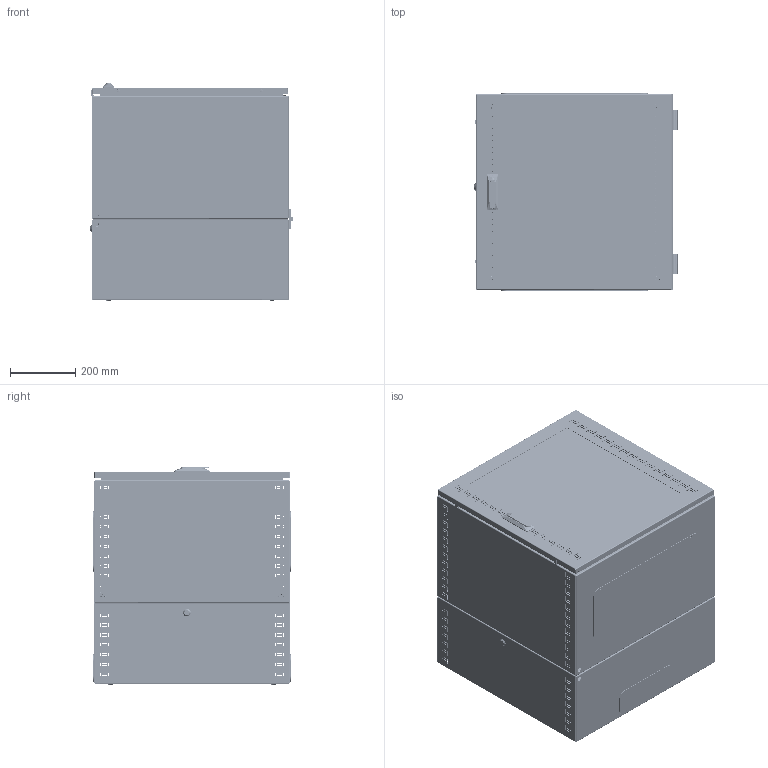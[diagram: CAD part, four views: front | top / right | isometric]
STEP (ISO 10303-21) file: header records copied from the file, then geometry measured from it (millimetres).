
FILE_DESCRIPTION (( 'STEP AP203' ), '1' );
FILE_NAME ('R5STI1265GS.STEP', '2019-07-16T12:24:20', ( '' ), ( '' ), 'SwSTEP 2.0', 'SolidWorks 2017', '' );
FILE_SCHEMA (( 'CONFIG_CONTROL_DESIGN' ));
Length unit declared in the file: millimetre
Products named in the file (51): RB.0374.00.02.0_-01 (12U); Handle Mesan (part 3); M8-DIN 6923 (CM100800)_stright; RB.0048.02.01.0; Lock 20x17,5x90 Ruslock; Ì6õ12-A5100231_straight; RB.0374.00.02.0 mirror_-05 (12U); 4.8x13 DIN 7981 (R5A07)_straight; RB.0374.05.01.0_-05 (600x600 glass); AC00C112; AC00C399; RB.0692.04.00.0 ÑÁ_-01 (600å600); RB.0692.03.00.0 C縫-01 (600x600); M6x12-DIN 6921_stright; M6x10-A1100004_straight; AC00C398; PF 7,5x15 door STI_0600å0600; M4x8 GOST 17475-80 (DIN 965)_straight; RB.0692.01.01.0_-01 (600å600å400); AC00C061_AC00C061; AC00C401_AC00C401; Handle 308 Mesan; RB.0374.05.00.0 捘_-05 (600x600 glass); Glass STI_0600x0600; AC00C383; RB.0692.01.02.0_-01 (600å600); RB.0374.04.01.0; AC00C380; RB.0374.06.00.0 捘_-05 (600x600 glass); Glue STI_0600x0600; M6 art.MGR-MKO-0625_2洵; Ì6õ20-A5100001_straight; RB.0374.04.00.0 CÁ; R5STI1265GS; RB.0374.00.01.0_-00 (400); Handle Mesan (part 1); RB.0692.02.01.0; RB.0692.01.00.0 CÁ_-01 (600å600å400); M6-DIN 6923 (CM100600)_straight; MirrorRB.0374.00.01.0_-00 (400)<As Machined>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
Assembly tree (158 placements, depth 4):
  R5STI1265GS
    RB.0692.04.00.0 ÑÁ_-01 (600å600)
      RB.0692.03.00.0 C縫-01 (600x600)
        RB.0692.03.01.0_-01 (600x600)
        RB.0374.01.02.0_-01 (600x600)
        Ì6õ12-A5100231_straight  x2
      AC00C061_AC00C061  x4
      RB.0374.04.00.0 CÁ  x2
        RB.0374.04.01.0
        Ì6õ12-A5100231_straight
      M6-DIN 6923 (CM100600)_straight  x8
      Lock 20x17,5x90 Ruslock
        Lock 20x17,5x90 Ruslock
        Nut 20x17,5x90 Ruslock
    RB.0692.02.00.0 C縫-01 (600x600x400)
      RB.0692.01.00.0 CÁ_-01 (600å600å400)
        RB.0692.01.01.0_-01 (600å600å400)
        RB.0692.01.02.0_-01 (600å600)
        Ì6õ20-A5100001_straight  x4
        Ì6õ12-A5100231_straight  x12
      RB.0374.03.00.0 CÁ  x2
        RB.0374.03.01.0
        Ì6õ12-A5100231_straight
      RB.0048.02.01.0  x2
      AC00C399  x2
      M4x8 GOST 17475-80 (DIN 965)_straight  x4
      AC00C383  x2
      AC00C061_AC00C061  x8
      M6-DIN 6923 (CM100600)_straight  x8
      M6 art.MGR-MKO-0625_2洵  x2
      RB.0692.02.01.0  x2
    Hinge M8 60x60 Ruslock  x4
    M8-DIN 6923 (CM100800)_stright  x8
    RB.0374.06.00.0 捘_-05 (600x600 glass)
      RB.0374.05.00.0 捘_-05 (600x600 glass)
        RB.0374.05.01.0_-05 (600x600 glass)
        AC00C398  x2
        Ì6õ12-A5100231_straight  x2
      AC00C112  x4
      AC00C061_AC00C061  x2
      PF 7,5x15 door STI_0600å0600
      Glass STI_0600x0600
      Glue STI_0600x0600
      Handle 308 Mesan
        Handle Mesan (part 1)
        Handle Mesan (part 2)
        Catch Mesan
        Handle Mesan (part 3)
        4.8x13 DIN 7981 (R5A07)_straight  x3
        M6x10-A1100004_straight
    RB.0374.00.01.0_-00 (400)
    MirrorRB.0374.00.01.0_-00 (400)<As Machined>  x2
    MirrorMirrorRB.0374.00.01.0_-00 (400)<As Machined><As Machined>
    RB.0374.00.02.0_-01 (12U)  x2
    RB.0374.00.02.0 mirror_-05 (12U)  x2
    M6-DIN 6923 (CM100600)_straight  x16
    M6x12-DIN 6921_stright  x8
    AC00C401_AC00C401  x2
    AC00C380  x2
Bounding box: 620 x 603 x 662.96 mm (x, y, z)
Volume: 5025503 mm3; surface area: 6020807.5 mm2
Topology: 219 solids, 219 shells, 8620 faces, 22031 edges, 14057 vertices
Faces by surface type: plane 5121, cylinder 1569, bspline 890, cone 786, torus 226, sphere 28
Entity records: 171575 total; most frequent: CARTESIAN_POINT 45404, ORIENTED_EDGE 25062, DIRECTION 22202, EDGE_CURVE 12531, VECTOR 9820, LINE 9820, VERTEX_POINT 8089, AXIS2_PLACEMENT_3D 6191
